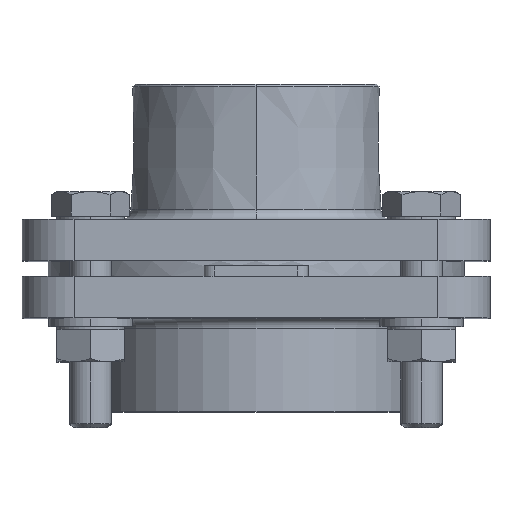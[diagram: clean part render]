
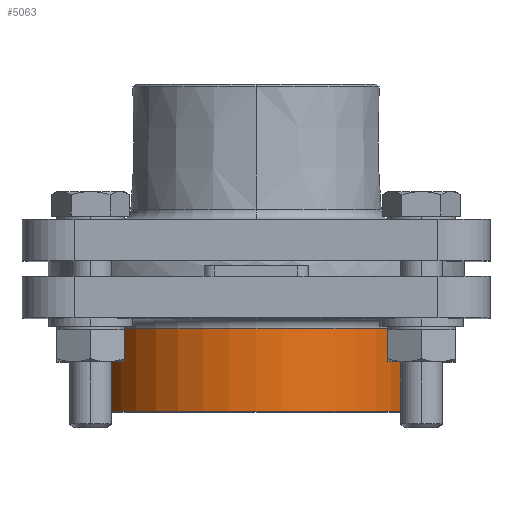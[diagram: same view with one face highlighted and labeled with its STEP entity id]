
A CAD part, top view. The second image highlights one B-rep face of the part: STEP entity #5063.
In plain terms, the highlighted cylindrical face has radius 30 mm (diameter 60 mm), a partial arc.
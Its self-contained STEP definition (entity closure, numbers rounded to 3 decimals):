
#97 = VERTEX_POINT ( 'NONE', #8251 ) ;
#450 = CARTESIAN_POINT ( 'NONE',  ( -44.119, -40.133, 3.465 ) ) ;
#474 = CARTESIAN_POINT ( 'NONE',  ( -14.119, -24.133, 3.465 ) ) ;
#494 = CYLINDRICAL_SURFACE ( 'NONE', #5656, 30. ) ;
#825 = DIRECTION ( 'NONE',  ( 1., 0., 0. ) ) ;
#864 = DIRECTION ( 'NONE',  ( 0., 1., 0. ) ) ;
#895 = CARTESIAN_POINT ( 'NONE',  ( -14.119, -40.133, 3.465 ) ) ;
#966 = LINE ( 'NONE', #5588, #1215 ) ;
#1104 = EDGE_CURVE ( 'NONE', #7337, #1304, #2055, .T. ) ;
#1215 = VECTOR ( 'NONE', #5653, 1000. ) ;
#1235 = DIRECTION ( 'NONE',  ( 1., 0., 0. ) ) ;
#1304 = VERTEX_POINT ( 'NONE', #4016 ) ;
#1514 = ORIENTED_EDGE ( 'NONE', *, *, #1104, .T. ) ;
#1568 = ORIENTED_EDGE ( 'NONE', *, *, #1786, .F. ) ;
#1786 = EDGE_CURVE ( 'NONE', #7337, #97, #966, .T. ) ;
#2055 = CIRCLE ( 'NONE', #6296, 30. ) ;
#2404 = DIRECTION ( 'NONE',  ( 0., 1., 0. ) ) ;
#2650 = ORIENTED_EDGE ( 'NONE', *, *, #5998, .T. ) ;
#2674 = DIRECTION ( 'NONE',  ( 1., 0., 0. ) ) ;
#3460 = FACE_OUTER_BOUND ( 'NONE', #8656, .T. ) ;
#4016 = CARTESIAN_POINT ( 'NONE',  ( 15.881, -40.133, 3.465 ) ) ;
#5063 = ADVANCED_FACE ( 'NONE', ( #3460 ), #494, .T. ) ;
#5133 = EDGE_CURVE ( 'NONE', #97, #6113, #8022, .T. ) ;
#5551 = ORIENTED_EDGE ( 'NONE', *, *, #5133, .F. ) ;
#5588 = CARTESIAN_POINT ( 'NONE',  ( -44.119, -14.734, 3.465 ) ) ;
#5653 = DIRECTION ( 'NONE',  ( 0., 1., 0. ) ) ;
#5656 = AXIS2_PLACEMENT_3D ( 'NONE', #9405, #6360, #2674 ) ;
#5742 = DIRECTION ( 'NONE',  ( 0., 1., 0. ) ) ;
#5998 = EDGE_CURVE ( 'NONE', #1304, #6113, #6309, .T. ) ;
#6057 = VECTOR ( 'NONE', #2404, 1000. ) ;
#6113 = VERTEX_POINT ( 'NONE', #9296 ) ;
#6296 = AXIS2_PLACEMENT_3D ( 'NONE', #895, #864, #825 ) ;
#6309 = LINE ( 'NONE', #6894, #6057 ) ;
#6360 = DIRECTION ( 'NONE',  ( 0., 1., 0. ) ) ;
#6894 = CARTESIAN_POINT ( 'NONE',  ( 15.881, -14.734, 3.465 ) ) ;
#7174 = AXIS2_PLACEMENT_3D ( 'NONE', #474, #5742, #1235 ) ;
#7337 = VERTEX_POINT ( 'NONE', #450 ) ;
#8022 = CIRCLE ( 'NONE', #7174, 30. ) ;
#8251 = CARTESIAN_POINT ( 'NONE',  ( -44.119, -24.133, 3.465 ) ) ;
#8656 = EDGE_LOOP ( 'NONE', ( #1568, #1514, #2650, #5551 ) ) ;
#9296 = CARTESIAN_POINT ( 'NONE',  ( 15.881, -24.133, 3.465 ) ) ;
#9405 = CARTESIAN_POINT ( 'NONE',  ( -14.119, -14.734, 3.465 ) ) ;
